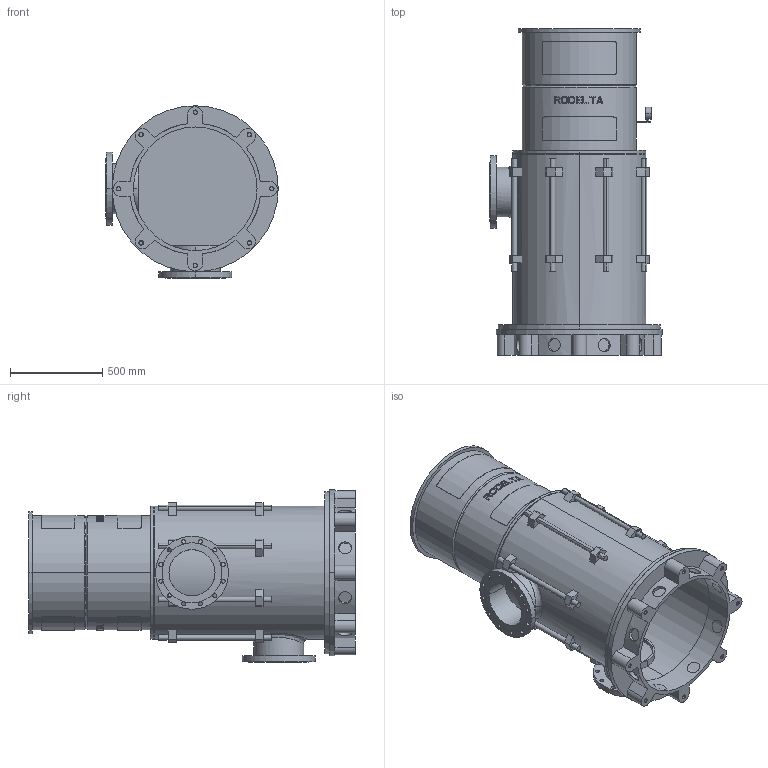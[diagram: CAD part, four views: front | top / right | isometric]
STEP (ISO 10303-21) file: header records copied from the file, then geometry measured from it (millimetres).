
FILE_DESCRIPTION((''),'2;1');
FILE_NAME('LS10_1TR_0GR','2025-10-20T10:16:15',('Lyritlocal'),(''),'CREO PARAMETRIC BY PTC INC, 2022014','CREO PARAMETRIC BY PTC INC, 2022014','');
FILE_SCHEMA(('CONFIG_CONTROL_DESIGN'));
Length unit declared in the file: millimetre
Products named in the file (1): LS10_1TR_0GR
Bounding box: 935 x 1770 x 935 mm (x, y, z)
Volume: 82856723.4 mm3; surface area: 11020493.1 mm2
Topology: 3 solids, 11 shells, 752 faces, 1936 edges, 1288 vertices
Faces by surface type: plane 462, cylinder 274, cone 12, bspline 4
Entity records: 24363 total; most frequent: CARTESIAN_POINT 6009, ORIENTED_EDGE 3840, DIRECTION 3664, EDGE_CURVE 1936, AXIS2_PLACEMENT_3D 1381, VERTEX_POINT 1288, EDGE_LOOP 922, VECTOR 902
